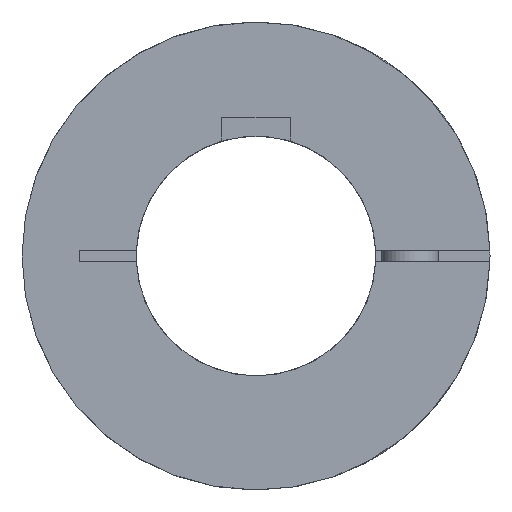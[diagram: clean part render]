
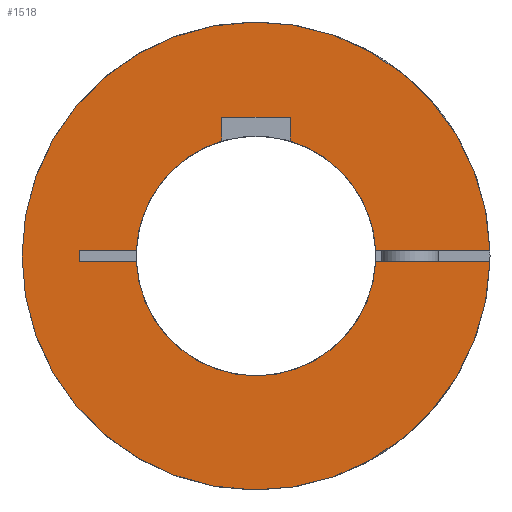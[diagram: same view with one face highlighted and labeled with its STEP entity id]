
A CAD part, left-side view. The second image highlights one B-rep face of the part: STEP entity #1518.
In plain terms, the highlighted planar face has unit normal (-1, 0, 0).
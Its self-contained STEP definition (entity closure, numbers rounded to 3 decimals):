
#50=PLANE('',#1723);
#141=LINE('',#2662,#252);
#144=LINE('',#2668,#255);
#145=LINE('',#2670,#256);
#157=LINE('',#2692,#268);
#160=LINE('',#2698,#271);
#175=LINE('',#2724,#286);
#176=LINE('',#2726,#287);
#198=LINE('',#2779,#309);
#252=VECTOR('',#2041,1.);
#255=VECTOR('',#2046,1.);
#256=VECTOR('',#2049,1.);
#268=VECTOR('',#2069,21.553);
#271=VECTOR('',#2076,21.553);
#286=VECTOR('',#2103,31.541);
#287=VECTOR('',#2106,31.541);
#309=VECTOR('',#2166,2.);
#412=FACE_OUTER_BOUND('',#514,.T.);
#514=EDGE_LOOP('',(#1349,#1350,#1351,#1352,#1353,#1354,#1355,#1356,#1357,
#1358,#1359,#1360));
#609=CIRCLE('',#1639,41.);
#638=CIRCLE('',#1681,21.);
#641=CIRCLE('',#1685,21.);
#643=CIRCLE('',#1687,21.);
#701=VERTEX_POINT('',#2452);
#702=VERTEX_POINT('',#2454);
#741=VERTEX_POINT('',#2632);
#742=VERTEX_POINT('',#2633);
#747=VERTEX_POINT('',#2644);
#748=VERTEX_POINT('',#2646);
#751=VERTEX_POINT('',#2652);
#752=VERTEX_POINT('',#2654);
#754=VERTEX_POINT('',#2660);
#756=VERTEX_POINT('',#2666);
#762=VERTEX_POINT('',#2690);
#763=VERTEX_POINT('',#2697);
#867=EDGE_CURVE('',#701,#702,#609,.T.);
#918=EDGE_CURVE('',#741,#742,#638,.T.);
#924=EDGE_CURVE('',#748,#747,#641,.T.);
#928=EDGE_CURVE('',#752,#751,#643,.T.);
#932=EDGE_CURVE('',#751,#754,#141,.T.);
#935=EDGE_CURVE('',#754,#756,#144,.T.);
#936=EDGE_CURVE('',#756,#748,#145,.T.);
#948=EDGE_CURVE('',#762,#742,#157,.T.);
#951=EDGE_CURVE('',#763,#752,#160,.T.);
#966=EDGE_CURVE('',#747,#702,#175,.T.);
#967=EDGE_CURVE('',#701,#741,#176,.T.);
#989=EDGE_CURVE('',#763,#762,#198,.T.);
#1349=ORIENTED_EDGE('',*,*,#918,.T.);
#1350=ORIENTED_EDGE('',*,*,#948,.F.);
#1351=ORIENTED_EDGE('',*,*,#989,.F.);
#1352=ORIENTED_EDGE('',*,*,#951,.T.);
#1353=ORIENTED_EDGE('',*,*,#928,.T.);
#1354=ORIENTED_EDGE('',*,*,#932,.T.);
#1355=ORIENTED_EDGE('',*,*,#935,.T.);
#1356=ORIENTED_EDGE('',*,*,#936,.T.);
#1357=ORIENTED_EDGE('',*,*,#924,.T.);
#1358=ORIENTED_EDGE('',*,*,#966,.T.);
#1359=ORIENTED_EDGE('',*,*,#867,.F.);
#1360=ORIENTED_EDGE('',*,*,#967,.T.);
#1518=ADVANCED_FACE('',(#412),#50,.T.);
#1639=AXIS2_PLACEMENT_3D('',#2455,#1914,#1915);
#1681=AXIS2_PLACEMENT_3D('',#2634,#2017,#2018);
#1685=AXIS2_PLACEMENT_3D('',#2647,#2028,#2029);
#1687=AXIS2_PLACEMENT_3D('',#2655,#2034,#2035);
#1723=AXIS2_PLACEMENT_3D('',#2780,#2167,#2168);
#1914=DIRECTION('center_axis',(1.,0.,0.));
#1915=DIRECTION('ref_axis',(0.,1.,0.));
#2017=DIRECTION('center_axis',(1.,0.,0.));
#2018=DIRECTION('ref_axis',(0.,0.,1.));
#2028=DIRECTION('center_axis',(1.,0.,0.));
#2029=DIRECTION('ref_axis',(0.,0.,1.));
#2034=DIRECTION('center_axis',(1.,0.,0.));
#2035=DIRECTION('ref_axis',(0.,0.,1.));
#2041=DIRECTION('',(0.,0.,1.));
#2046=DIRECTION('',(0.,-1.,0.));
#2049=DIRECTION('',(0.,0.,-1.));
#2069=DIRECTION('',(0.,-1.,0.));
#2076=DIRECTION('',(0.,-1.,0.));
#2103=DIRECTION('',(0.,-1.,0.));
#2106=DIRECTION('',(0.,1.,0.));
#2166=DIRECTION('',(0.,0.,-1.));
#2167=DIRECTION('center_axis',(-1.,0.,0.));
#2168=DIRECTION('ref_axis',(0.,-1.,0.));
#2452=CARTESIAN_POINT('',(0.,-40.988,-1.));
#2454=CARTESIAN_POINT('',(0.,-40.988,1.));
#2455=CARTESIAN_POINT('Origin',(0.,0.,0.));
#2632=CARTESIAN_POINT('',(0.,-20.976,-1.));
#2633=CARTESIAN_POINT('',(0.,20.976,-1.));
#2634=CARTESIAN_POINT('Origin',(0.,0.,0.));
#2644=CARTESIAN_POINT('',(0.,-20.976,1.));
#2646=CARTESIAN_POINT('',(0.,-6.,20.125));
#2647=CARTESIAN_POINT('Origin',(0.,0.,0.));
#2652=CARTESIAN_POINT('',(0.,6.,20.125));
#2654=CARTESIAN_POINT('',(0.,20.976,1.));
#2655=CARTESIAN_POINT('Origin',(0.,0.,0.));
#2660=CARTESIAN_POINT('',(0.,6.,24.3));
#2662=CARTESIAN_POINT('',(0.,6.,26.575));
#2666=CARTESIAN_POINT('',(0.,-6.,24.3));
#2668=CARTESIAN_POINT('',(0.,0.,24.3));
#2670=CARTESIAN_POINT('',(0.,-6.,26.575));
#2690=CARTESIAN_POINT('',(0.,31.,-1.));
#2692=CARTESIAN_POINT('',(0.,31.,-1.));
#2697=CARTESIAN_POINT('',(0.,31.,1.));
#2698=CARTESIAN_POINT('',(0.,31.,1.));
#2724=CARTESIAN_POINT('',(0.,-9.447,1.));
#2726=CARTESIAN_POINT('',(0.,-40.988,-1.));
#2779=CARTESIAN_POINT('',(0.,31.,1.));
#2780=CARTESIAN_POINT('Origin',(0.,0.,41.));
